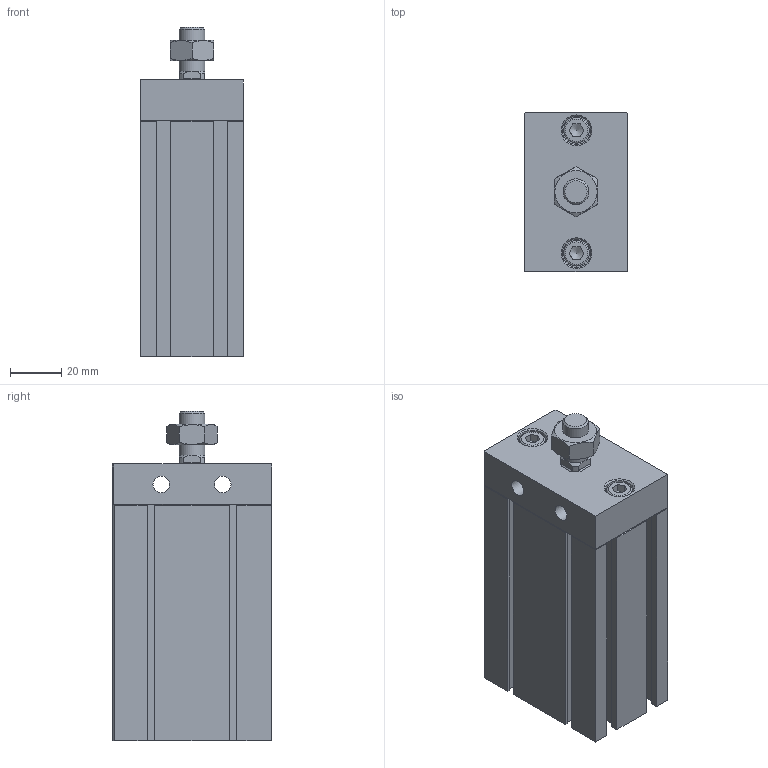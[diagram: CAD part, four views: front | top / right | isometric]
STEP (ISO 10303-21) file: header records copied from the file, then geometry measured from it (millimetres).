
FILE_DESCRIPTION((''),'2;1');
FILE_NAME('I:\3D電子目錄\氣缸\ND\ND\ND32-B\ND32x60-B.stp','2007-07-30T20:22:50',('Administrator'),(''),'Autodesk Inventor 11','Autodesk Inventor 11','');
FILE_SCHEMA(('AUTOMOTIVE_DESIGN { 1 0 10303 214 1 1 1 1 }'));
Length unit declared in the file: millimetre
Products named in the file (4): ND32-B; R 形環 34; ISO 4762 M6 x 16
Assembly tree (4 placements, depth 2):
  ND32-B
    ND32-B
    R 形環 34
    ISO 4762 M6 x 16  x2
Bounding box: 40 x 62.1 x 128.5 mm (x, y, z)
Volume: 242483.6 mm3; surface area: 44719.8 mm2
Topology: 5 solids, 5 shells, 205 faces, 489 edges, 311 vertices
Faces by surface type: plane 141, cylinder 27, cone 20, bspline 14, torus 3
Full cylindrical faces by diameter (mm): 1.9 x2, 2.2 x2, 6 x2, 6.5 x2, 10 x4, 11 x2, 23 x1, 34 x1, 36 x1
Entity records: 5447 total; most frequent: CARTESIAN_POINT 1131, DIRECTION 848, ORIENTED_EDGE 824, EDGE_CURVE 412, VECTOR 294, LINE 294, VERTEX_POINT 286, AXIS2_PLACEMENT_3D 277
